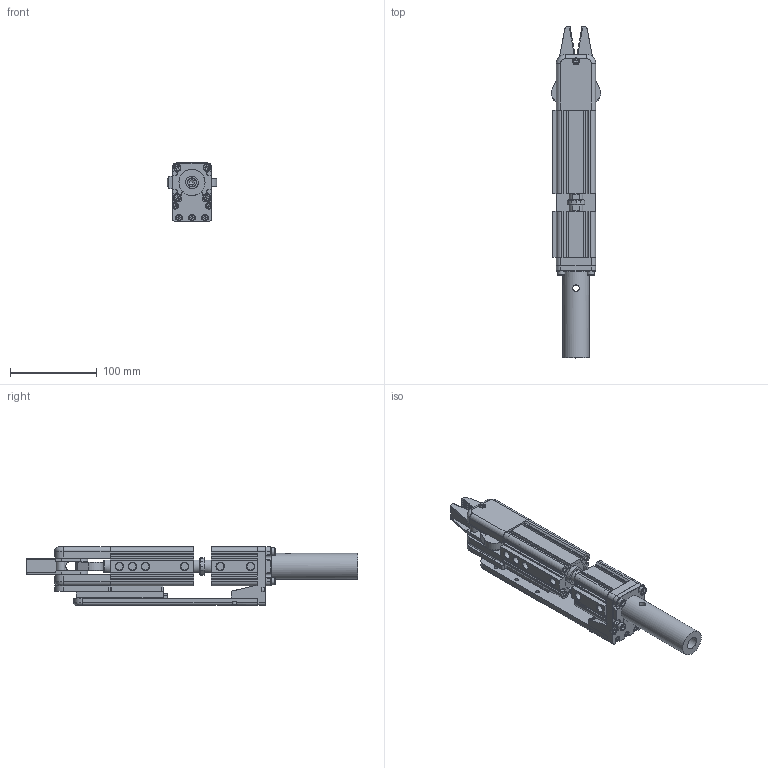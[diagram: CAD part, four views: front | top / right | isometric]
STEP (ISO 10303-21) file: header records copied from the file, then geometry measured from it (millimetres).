
FILE_DESCRIPTION(/* description */ (''),/* implementation_level */ '2;1');
FILE_NAME(/* name */ 'GRP32B-3020--30.stp',/* time_stamp */ '2023-02-20T16:03:54+08:00',/* author */ (''),/* organization */ (''),/* preprocessor_version */ 'ST-DEVELOPER v16',/* originating_system */ 'SIEMENS PLM Software NX 10.0',/* authorisation */ '');
FILE_SCHEMA (('AUTOMOTIVE_DESIGN { 1 0 10303 214 3 1 1 1 }'));
Products named in the file (1): _model29
Bounding box: 56.95 x 381.81 x 67 mm (x, y, z)
Volume: 496146.9 mm3; surface area: 189479.9 mm2
Topology: 14 solids, 30 shells, 2660 faces, 5428 edges, 2898 vertices
Faces by surface type: plane 2154, cylinder 342, cone 125, revolution 25, sphere 14
Full cylindrical faces by diameter (mm): 2.5 x2, 3.3 x8, 4 x12, 4.1 x1, 4.2 x16, 4.5 x8, 4.917 x8, 5 x8, 5.2 x12, 5.5 x8, 6 x13, 6.5 x1, 6.647 x3, 6.8 x1, 7 x12, 7.5 x2, 8 x7, 8.5 x9, 8.566 x6, 8.6 x1, 9 x16, 10 x5, 13 x2, 13.5 x1, 14 x1, 14.5 x1, 15 x2, 16 x3, 18.129 x1, 20 x3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
Entity records: 83318 total; most frequent: CARTESIAN_POINT 11749, DIRECTION 11137, ORIENTED_EDGE 9902, EDGE_CURVE 4951, LINE 3874, VECTOR 3874, AXIS2_PLACEMENT_3D 3619, EDGE_LOOP 3138
